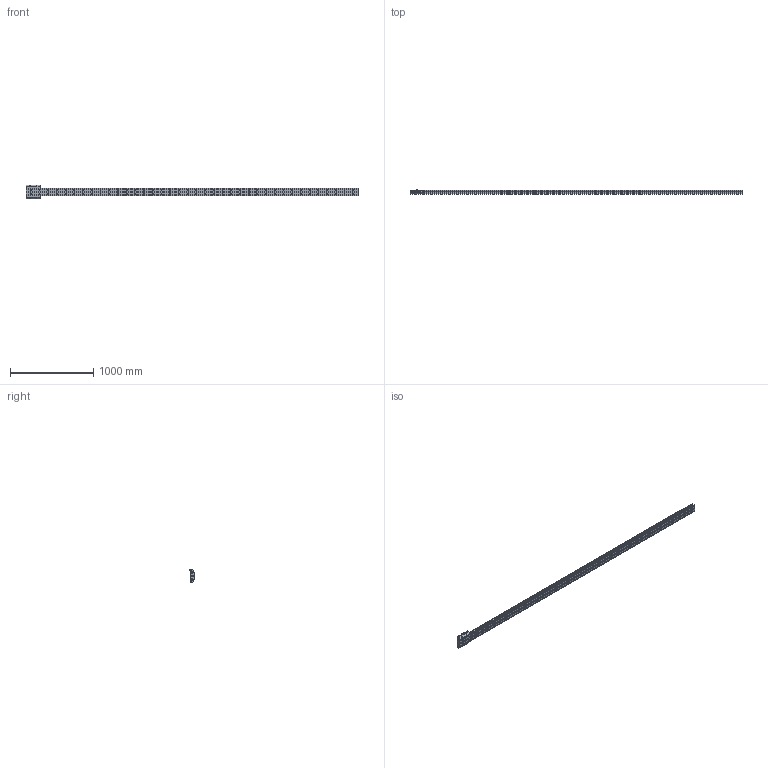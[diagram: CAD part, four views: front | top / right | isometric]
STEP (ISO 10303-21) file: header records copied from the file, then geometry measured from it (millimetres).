
FILE_DESCRIPTION( ( 'STEP AP203' ), '1' );
FILE_NAME( 'p:/temp/worker_19/temp/exporttempdir_160_885_qgVAe/format_0/FDG45 84369LN_4000-0-0.stp', '2021-04-27T06:40:14', ( 'License CC BY-ND 4.0' ), ( 'CADENAS' ), ' ', 'PARTsolutions', ' ' );
FILE_SCHEMA( ( 'CONFIG_CONTROL_DESIGN' ) );
Length unit declared in the file: millimetre
Products named in the file (5): FDG45 84369LN_4000-0-0; _FD_45R 4000-0-0; _FD_45R Rollenhalter_1; _FD_45R 4000-0-0_2; _FD_45R Rollenhalter_2
Assembly tree (4 placements, depth 2):
  FDG45 84369LN_4000-0-0
    _FD_45R 4000-0-0
    _FD_45R Rollenhalter_1
    _FD_45R 4000-0-0_2
    _FD_45R Rollenhalter_2
Bounding box: 4000 x 53.5 x 164.8 mm (x, y, z)
Volume: 14708522.7 mm3; surface area: 1725106.5 mm2
Topology: 4 solids, 8 shells, 663 faces, 1763 edges, 1194 vertices
Faces by surface type: plane 434, cylinder 216, cone 12, torus 1
Full cylindrical faces by diameter (mm): 4.2 x1, 6.647 x8, 10.106 x4, 11 x76, 14 x1, 18 x76
Entity records: 19495 total; most frequent: CARTESIAN_POINT 3358, DIRECTION 3255, ORIENTED_EDGE 2980, EDGE_CURVE 1490, AXIS2_PLACEMENT_3D 1111, VERTEX_POINT 1106, EDGE_LOOP 1078, LINE 1033
